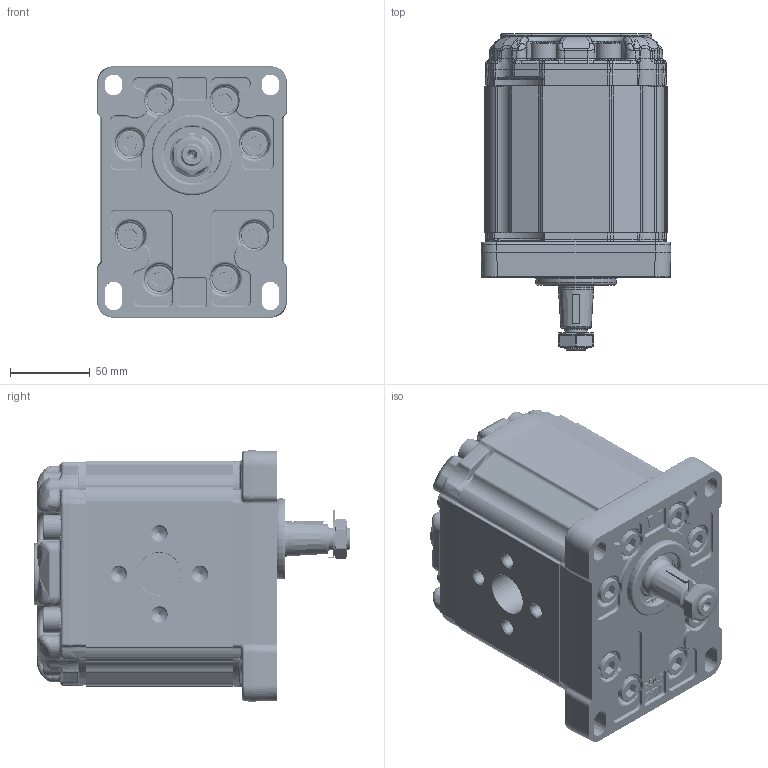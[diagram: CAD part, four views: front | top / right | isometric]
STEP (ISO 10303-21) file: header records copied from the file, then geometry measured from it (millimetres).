
FILE_DESCRIPTION(/* description */ ('Unknown'),/* implementation_level */ '2;1');
FILE_NAME(/* name */ 'X3P8002ABAA',/* time_stamp */ '2023-09-08T14:36:33+02:00',/* author */ ('Unknown'),/* organization */ ('Unknown'),/* preprocessor_version */ 'ST-DEVELOPER v16.7',/* originating_system */ 'Solid Edge',/* authorisation */ 'Unknown');
FILE_SCHEMA (('AUTOMOTIVE_DESIGN {1 0 10303 214 3 1 1}'));
Products named in the file (5): X3P8002ABAA; X3P02; 3A; X3BAH92; XP301-A
Assembly tree (4 placements, depth 2):
  X3P8002ABAA
    X3P02
    3A
    X3BAH92
    XP301-A
Bounding box: 119.2 x 199 x 157.8 mm (x, y, z)
Volume: 2181407 mm3; surface area: 227119.8 mm2
Topology: 4 solids, 5 shells, 4597 faces, 14078 edges, 8799 vertices
Faces by surface type: cylinder 1842, plane 1394, bspline 997, torus 200, cone 151, sphere 13
Full cylindrical faces by diameter (mm): 2 x2, 6.8 x4, 8.376 x4, 10 x16, 10.35 x30, 10.5 x1, 14 x2, 15.8 x16, 16 x16, 20 x1, 22 x1, 24.98 x1, 25 x2, 25.968 x1, 27 x1, 28.16 x1, 31 x1, 31.293 x1, 32.742 x1, 34.956 x1, 35 x1, 35.2 x1, 37 x1, 50.8 x1
Entity records: 310920 total; most frequent: CARTESIAN_POINT 163809, ORIENTED_EDGE 27172, DIRECTION 20433, EDGE_CURVE 13586, VERTEX_POINT 8656, AXIS2_PLACEMENT_3D 7787, FACE_BOUND 5074, EDGE_LOOP 5064
